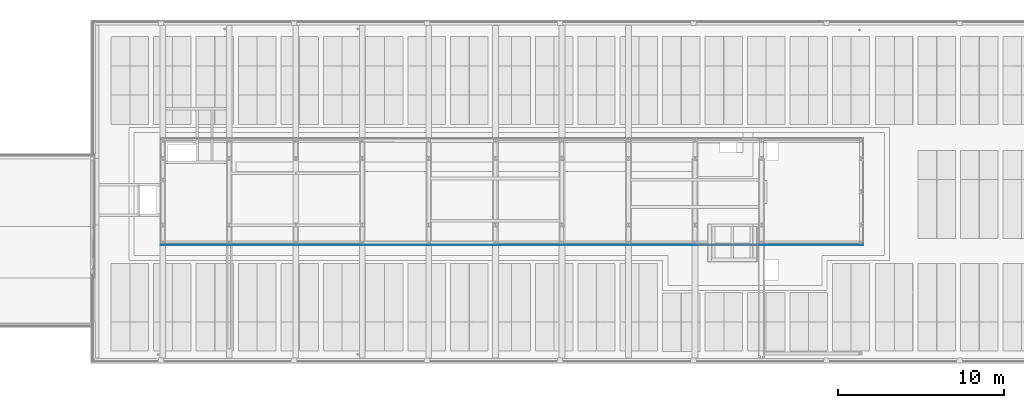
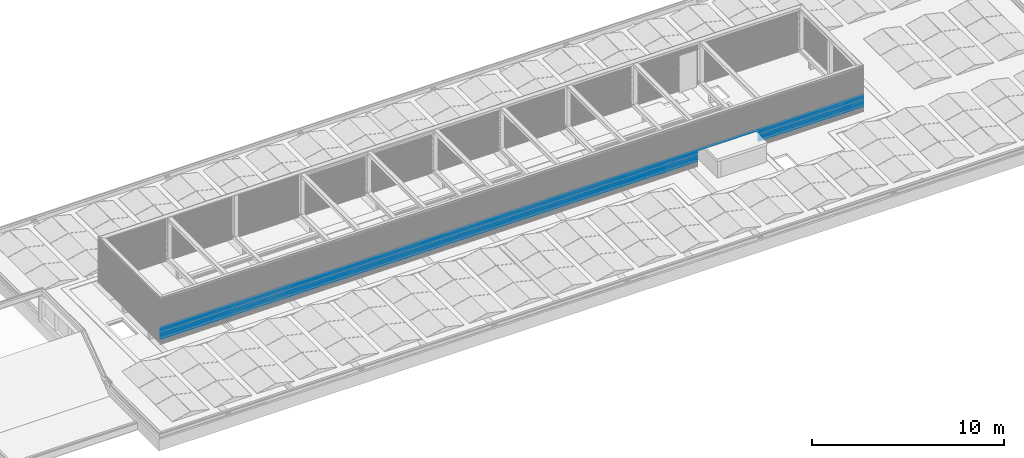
# One storey, part 34 of 63: 8 building element parts, 1 opening, 1 element without a shape of its own.
"""IFC2X3 building model written with IfcOpenShell, lengths in millimetres."""

import ifcopenshell
import ifcopenshell.guid

model = None  # the IFC model being written
_history = None  # IfcOwnerHistory: only IFC2X3 demands one
_inside = {}  # id of a spatial element -> (the spatial element, [elements in it])
_under = {}  # id of a project, library or spatial element -> (it, [spatial elements below it])
_declared = {}  # id of a project -> (the project, [libraries it declares])
_typed = {}  # id of a type object -> (the type object, [elements of that type])
_made_of = {}  # id of a material, layer set ... -> (it, [elements and type objects made of it])


def new_model(schema):
    """Start an empty IFC model of exactly this schema.

    Asked for "IFC4X3", IfcOpenShell would pick the latest addendum, in which some entities
    have other attributes; the version numbers below select the first issue.
    IFC2X3 requires an IfcOwnerHistory on every rooted entity: one is made here for all.
    """
    global model, _history
    if schema == "IFC4X3":
        model = ifcopenshell.file(schema_version=(4, 3, 0, 0))
    else:
        model = ifcopenshell.file(schema=schema)
    _inside.clear()
    _under.clear()
    _declared.clear()
    _typed.clear()
    _made_of.clear()
    _history = None
    if model.schema == "IFC2X3":
        org = make("IfcOrganization", Name="unknown")
        user = make(
            "IfcPersonAndOrganization",
            ThePerson=make("IfcPerson", FamilyName="unknown"),
            TheOrganization=org,
        )
        app = make(
            "IfcApplication",
            ApplicationDeveloper=org,
            Version="unknown",
            ApplicationFullName="unknown",
            ApplicationIdentifier="unknown",
        )
        _history = make(
            "IfcOwnerHistory",
            OwningUser=user,
            OwningApplication=app,
            ChangeAction="ADDED",
            CreationDate=0,
        )
    return model


def make(cls, **values):
    """One entity of the class cls with the attributes given. An attribute that is None is left unset."""
    return model.create_entity(
        cls, **{name: value for name, value in values.items() if value is not None}
    )


def entity(cls, *values):
    """Any entity or typed value of the class cls, its attributes in the order of the schema. None: left unset."""
    e = model.create_entity(cls)
    for i, value in enumerate(values):
        if value is not None:
            e[i] = value
    return e


def rooted(cls, **values):
    """An entity with a GlobalId (a new one), such as an element, a storey or a relation."""
    return make(cls, GlobalId=ifcopenshell.guid.new(), OwnerHistory=_history, **values)


def si_unit(unit_type, name, prefix=None):
    """IfcSIUnit, for example si_unit("LENGTHUNIT", "METRE", prefix="MILLI")."""
    return make("IfcSIUnit", UnitType=unit_type, Prefix=prefix, Name=name)


def converted_unit(unit_type, name, factor, base, dimensions=None, offset=None):
    """IfcConversionBasedUnit, such as the inch: factor (a typed value) times the base unit."""
    return make(
        "IfcConversionBasedUnit"
        if offset is None
        else "IfcConversionBasedUnitWithOffset",
        ConversionOffset=offset,
        Dimensions=None
        if dimensions is None
        else entity("IfcDimensionalExponents", *dimensions),
        UnitType=unit_type,
        Name=name,
        ConversionFactor=make(
            "IfcMeasureWithUnit", ValueComponent=factor, UnitComponent=base
        ),
    )


def derived_unit(unit_type, elements):
    """IfcDerivedUnit: a product of units, each with its exponent."""
    return make(
        "IfcDerivedUnit",
        Elements=[
            make("IfcDerivedUnitElement", Unit=unit, Exponent=power)
            for unit, power in elements
        ],
        UnitType=unit_type,
    )


def money_unit(currency):
    """IfcMonetaryUnit."""
    return make("IfcMonetaryUnit", Currency=currency)


def assignment(units):
    """IfcUnitAssignment: the units of a project."""
    return None if units is None else make("IfcUnitAssignment", Units=units)


def point(xyz):
    """IfcCartesianPoint."""
    return None if xyz is None else make("IfcCartesianPoint", Coordinates=xyz)


def direction(xyz):
    """IfcDirection."""
    return None if xyz is None else make("IfcDirection", DirectionRatios=xyz)


def frame(location, z_axis=None, x_axis=None):
    """IfcAxis2Placement3D, a coordinate frame: its origin and axes. An axis left out is left unset."""
    return make(
        "IfcAxis2Placement3D",
        Location=point(location),
        Axis=direction(z_axis),
        RefDirection=direction(x_axis),
    )


def origin_with_axes():
    """The frame at (0, 0, 0) with the z axis (0, 0, 1) and the x axis (1, 0, 0) written out."""
    return frame((0.0, 0.0, 0.0), z_axis=(0.0, 0.0, 1.0), x_axis=(1.0, 0.0, 0.0))


def place(relative_to, where):
    """IfcLocalPlacement: puts the frame where relative to a parent placement (None: the world)."""
    return make(
        "IfcLocalPlacement", PlacementRelTo=relative_to, RelativePlacement=where
    )


def context(
    kind, dimensions, precision=None, world=None, true_north=None, identifier=None
):
    """IfcGeometricRepresentationContext, for example the 3D "Model" context."""
    return make(
        "IfcGeometricRepresentationContext",
        ContextIdentifier=identifier,
        ContextType=kind,
        CoordinateSpaceDimension=dimensions,
        Precision=precision,
        WorldCoordinateSystem=world,
        TrueNorth=true_north,
    )


def subcontext(parent, identifier, kind, view, scale=None):
    """IfcGeometricRepresentationSubContext, for example "Body" below "Model"."""
    return make(
        "IfcGeometricRepresentationSubContext",
        ContextIdentifier=identifier,
        ContextType=kind,
        ParentContext=parent,
        TargetScale=scale,
        TargetView=view,
    )


def project(units=None, contexts=None):
    """IfcProject with its units and contexts."""
    return rooted(
        "IfcProject",
        Name="project",
        RepresentationContexts=contexts,
        UnitsInContext=assignment(units),
    )


def spatial(cls, under=None, at=None, **own):
    """A site, building, storey or space (cls), placed at a placement, below another one or the project."""
    s = rooted(cls, ObjectPlacement=at, **own)
    if under is not None:
        _under.setdefault(under.id(), (under, []))[1].append(s)
    return s


def faces_of(points, faces, orient=None, outer=None):
    """IfcFace entities. A face is a list of loops; a loop is a list of indices into points, from 0.

    orient and outer hold one flag for each loop. By default every Orientation is true, the
    first loop of a face is its IfcFaceOuterBound and the others are IfcFaceBound.
    """
    made = []
    for i, loops in enumerate(faces):
        bounds = []
        for j, loop in enumerate(loops):
            is_outer = j == 0 if outer is None else outer[i][j]
            bounds.append(
                make(
                    "IfcFaceOuterBound" if is_outer else "IfcFaceBound",
                    Bound=make("IfcPolyLoop", Polygon=[points[k] for k in loop]),
                    Orientation=True if orient is None else orient[i][j],
                )
            )
        made.append(make("IfcFace", Bounds=bounds))
    return made


def faceted_brep(points, faces, orient=None, outer=None, voids=None):
    """IfcFacetedBrep: a solid bounded by flat faces; with voids (closed shells), ...WithVoids."""
    shared = [point(p) for p in points]
    hull = make("IfcClosedShell", CfsFaces=faces_of(shared, faces, orient, outer))
    if voids is None:
        return make("IfcFacetedBrep", Outer=hull)
    return make(
        "IfcFacetedBrepWithVoids",
        Outer=hull,
        Voids=[
            make(cls, CfsFaces=faces_of(shared, fs, o, b)) for cls, fs, o, b in voids
        ],
    )


def shape(context_of_items, identifier, shape_type, items):
    """IfcShapeRepresentation: the items that make up one representation, for example the "Body"."""
    return make(
        "IfcShapeRepresentation",
        ContextOfItems=context_of_items,
        RepresentationIdentifier=identifier,
        RepresentationType=shape_type,
        Items=items,
    )


def material(Name=None, Category=None):
    """IfcMaterial."""
    return make("IfcMaterial", Name=Name, Category=Category)


def made_of(thing, what):
    """Note that an element or type object is made of a material, layer set ...; save() writes the relation."""
    if what is not None:
        _made_of.setdefault(what.id(), (what, []))[1].append(thing)
    return thing


def type_object(cls, material=None, **own):
    """A type object (cls), such as IfcWallType, which elements share."""
    return made_of(rooted(cls, **own), material)


def element(
    cls,
    number,
    at=None,
    inside=None,
    cuts=None,
    type_object=None,
    material=None,
    context=None,
    identifier="Body",
    shape_type=None,
    held_by="IfcProductDefinitionShape",
    body=None,
    shapes=None,
    **own,
):
    """One element of the class cls, such as IfcWall. Its Tag is "e" and its number.

    at: its placement. inside: the storey or other place that contains it. cuts: it is an
    opening in that element (IfcRelVoidsElement). A single representation is given by context,
    identifier, shape_type and body (its items); several are given by shapes. held_by: the class
    of the entity that holds the representations. save() writes the other relations.
    """
    e = rooted(cls, Tag="e%d" % number, ObjectPlacement=at, **own)
    if body is not None:
        shapes = [shape(context, identifier, shape_type, body)]
    if shapes is not None:
        e.Representation = make(held_by, Representations=shapes)
    if inside is not None:
        _inside.setdefault(inside.id(), (inside, []))[1].append(e)
    if cuts is not None:
        rooted(
            "IfcRelVoidsElement", RelatingBuildingElement=cuts, RelatedOpeningElement=e
        )
    if type_object is not None:
        _typed.setdefault(type_object.id(), (type_object, []))[1].append(e)
    return made_of(e, material)


def aggregate(whole, parts):
    """IfcRelAggregates: a whole, such as a stair, and the parts it consists of."""
    return rooted("IfcRelAggregates", RelatingObject=whole, RelatedObjects=parts)


def save(model, path):
    """Write the relations noted so far, then the file.

    IfcRelAggregates (storeys below a building ...), IfcRelContainedInSpatialStructure (elements
    in a storey), IfcRelDefinesByType, IfcRelAssociatesMaterial and IfcRelDeclares: one each for
    every whole, place, type object, material and project.
    """
    for whole, parts in _under.values():
        aggregate(whole, parts)
    for where, things in _inside.values():
        rooted(
            "IfcRelContainedInSpatialStructure",
            RelatedElements=things,
            RelatingStructure=where,
        )
    for kind, things in _typed.values():
        rooted("IfcRelDefinesByType", RelatedObjects=things, RelatingType=kind)
    for what, things in _made_of.values():
        rooted("IfcRelAssociatesMaterial", RelatedObjects=things, RelatingMaterial=what)
    for by, libraries in _declared.values():
        rooted("IfcRelDeclares", RelatingContext=by, RelatedDefinitions=libraries)
    model.write(path)


model = new_model("IFC2X3")

# Units and contexts
model_context = context("Model", 3, precision=0.01, world=origin_with_axes(), true_north=direction((0.0, 1.0)))
body_context = subcontext(model_context, "Body", "Model", "MODEL_VIEW")
ifc_project = project(units=[si_unit("LENGTHUNIT", "METRE", prefix="MILLI"), si_unit("AREAUNIT", "SQUARE_METRE"), si_unit("VOLUMEUNIT", "CUBIC_METRE"), converted_unit("PLANEANGLEUNIT", "DEGREE", entity("IfcPlaneAngleMeasure", 0.0174532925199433), si_unit("PLANEANGLEUNIT", "RADIAN"), dimensions=[0, 0, 0, 0, 0, 0, 0]), money_unit("EUR"), converted_unit("TIMEUNIT", "Year", entity("IfcTimeMeasure", 31557600.0), si_unit("TIMEUNIT", "SECOND"), dimensions=[0, 0, 1, 0, 0, 0, 0]), si_unit("MASSUNIT", "GRAM", prefix="KILO"), si_unit("THERMODYNAMICTEMPERATUREUNIT", "DEGREE_CELSIUS"), si_unit("LUMINOUSINTENSITYUNIT", "LUMEN"), si_unit("ENERGYUNIT", "JOULE", prefix="MEGA"), derived_unit("THERMALCONDUCTANCEUNIT", [(si_unit("POWERUNIT", "WATT"), 1), (si_unit("LENGTHUNIT", "METRE"), -1), (si_unit("THERMODYNAMICTEMPERATUREUNIT", "KELVIN"), -1)]), derived_unit("SPECIFICHEATCAPACITYUNIT", [(si_unit("ENERGYUNIT", "JOULE"), 1), (si_unit("MASSUNIT", "GRAM", prefix="KILO"), -1), (si_unit("THERMODYNAMICTEMPERATUREUNIT", "KELVIN"), -1)]), derived_unit("MASSDENSITYUNIT", [(si_unit("MASSUNIT", "GRAM", prefix="KILO"), 1), (si_unit("VOLUMEUNIT", "CUBIC_METRE"), -1)])], contexts=[model_context])

# Site, building, storey
site_placement = place(None, origin_with_axes())
site = spatial("IfcSite", under=ifc_project, at=site_placement, Name="<site naam>", CompositionType="ELEMENT")
building_placement = place(site_placement, origin_with_axes())
building = spatial("IfcBuilding", under=site, at=building_placement, Name="<Naam gebouw>", CompositionType="ELEMENT")
storey_placement = place(building_placement, frame((0.0, 0.0, 12770.0), z_axis=(0.0, 0.0, 1.0), x_axis=(1.0, 0.0, 0.0)))
storey = spatial("IfcBuildingStorey", under=building, at=storey_placement, Name="04 4e verdieping", CompositionType="ELEMENT", Elevation=12770.0)

# Wall, opening, building element parts
wall_type = type_object("IfcWallType", Name="Gevelbeplating golf 18 x 2900", PredefinedType="NOTDEFINED")
wall_placement = place(storey_placement, frame((15871.99992141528, 6781.999921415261, 299.9552842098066), z_axis=(0.0, 0.0, 1.0), x_axis=(1.0, 0.0, 0.0)))
wall = element("IfcWall", 1, at=wall_placement, inside=storey, type_object=wall_type, Name="47_Binnenwand_Gevelbeplating")
opening_placement = place(wall_placement, frame((-15871.99992141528, -6781.999921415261, -13069.95528420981), z_axis=(0.0, 0.0, 1.0), x_axis=(1.0, 0.0, 0.0)))
element("IfcOpeningElement", 2, at=opening_placement, cuts=wall, Name="47_Opening_", context=body_context, shape_type="Brep", body=[
    faceted_brep([(48150.00001112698, 6763.99976424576, 12770.0), (48150.00001112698, 6763.99976424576, 14059.65145375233), (48150.00001112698, 6818.000000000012, 14059.65145375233), (48150.00001112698, 6818.000000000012, 12770.0), (51850.00001112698, 6763.99976424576, 12770.0), (51850.00001112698, 6763.99976424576, 14059.65145375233), (51850.00001112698, 6818.000000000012, 14059.65145375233), (51850.00001112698, 6818.000000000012, 12770.0)], [[[0, 1, 2, 3]], [[0, 4, 5, 1]], [[1, 5, 6, 2]], [[3, 2, 6, 7]], [[4, 0, 3, 7]], [[5, 4, 7, 6]]]),
])
ifc_material = material(Name="gevelafwerking type 3 - Aluminium RAL1036")
building_element_part_1_placement = place(wall_placement, origin_with_axes())
building_element_part_1 = element("IfcBuildingElementPart", 3, at=building_element_part_1_placement, material=ifc_material, Name="gevelafwerking type 3 - Aluminium RAL1036", context=body_context, shape_type="Brep", body=[
    faceted_brep([(14.54420270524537, 15.62925335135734, 369.3155113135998), (14.77517145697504, 15.69999198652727, 369.6343177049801), (16.99997058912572, 17.99999047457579, 380.000004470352), (42239.00018658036, 17.99999047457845, 380.000004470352), (42241.22498571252, 15.69999198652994, 369.6343177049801), (42241.45595446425, 15.62925335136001, 369.3155113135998), (8.555206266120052, 9.398118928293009, 361.0488937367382), (8.555206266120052, 8.555243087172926, 361.0488937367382), (14.77517145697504, 14.7751875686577, 369.6343177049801), (16.99997058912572, 16.9999880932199, 380.000004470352), (42239.00018658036, 16.99998809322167, 380.000004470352), (42241.22498571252, 14.77518756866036, 369.6343177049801), (42247.44495090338, 9.398118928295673, 361.0488937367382), (42247.44495090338, 8.55524308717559, 361.0488937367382), (42247.79065310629, 9.04157414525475, 360.5758788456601), (8.209504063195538, 9.041574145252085, 360.5758788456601), (2.257331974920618, 3.340120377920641, 352.4317943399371), (2.257331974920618, 2.25734917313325, 352.4317943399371), (42253.74282519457, 3.340120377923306, 352.4317943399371), (42253.74282519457, 2.257349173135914, 352.4317943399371), (42253.8119553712, 3.116468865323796, 352.1123255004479), (2.188211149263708, 3.116468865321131, 352.1123255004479), (-6.853984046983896e-06, 0.9999904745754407, 341.9999910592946), (-6.853984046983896e-06, -9.525424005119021e-06, 341.9999910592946), (42256.00016402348, 0.9999904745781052, 341.9999910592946), (42256.00016402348, -9.525422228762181e-06, 341.9999910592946)], [[[0, 1, 2, 3, 4, 5]], [[1, 0, 6, 7, 8]], [[2, 1, 8, 9]], [[2, 9, 10, 3]], [[4, 3, 10, 11]], [[12, 5, 4, 11, 13]], [[6, 0, 5, 12, 14, 15]], [[6, 15, 16, 17, 7]], [[8, 7, 13, 11]], [[9, 8, 11, 10]], [[18, 14, 12, 13, 19]], [[16, 15, 14, 18, 20, 21]], [[16, 21, 22, 23, 17]], [[7, 17, 19, 13]], [[24, 20, 18, 19, 25]], [[22, 21, 20, 24]], [[23, 22, 24, 25]], [[17, 23, 25, 19]]]),
])
building_element_part_2_placement = place(wall_placement, origin_with_axes())
building_element_part_2 = element("IfcBuildingElementPart", 4, at=building_element_part_2_placement, material=ifc_material, Name="gevelafwerking type 3 - Aluminium RAL1036", context=body_context, shape_type="Brep", body=[
    faceted_brep([(14.54419514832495, 15.62925097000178, 521.315511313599), (14.77517145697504, 15.69999191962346, 521.6343281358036), (16.99997058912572, 17.99998809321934, 532.0000149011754), (42239.00018658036, 17.99998809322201, 532.0000149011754), (42241.22498571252, 15.69999191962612, 521.6343281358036), (42241.45596202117, 15.62925097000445, 521.315511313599), (8.555206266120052, 9.398124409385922, 513.0489041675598), (8.555206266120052, 8.55524070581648, 513.0489041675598), (14.77517145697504, 14.77518518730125, 521.6343281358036), (16.99997058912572, 16.99998571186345, 532.0000149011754), (42239.00018658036, 16.99998571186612, 532.0000149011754), (42241.22498571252, 14.77518518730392, 521.6343281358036), (42247.44495090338, 9.398124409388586, 513.0489041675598), (42247.44495090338, 8.555240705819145, 513.0489041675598), (42247.79066072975, 9.041571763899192, 512.5758788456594), (8.209496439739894, 9.041571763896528, 512.5758788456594), (2.257331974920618, 3.340125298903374, 504.4318047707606), (2.257331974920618, 2.257346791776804, 504.4318047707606), (42253.74282519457, 3.340125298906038, 504.4318047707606), (42253.74282519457, 2.257346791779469, 504.4318047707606), (42253.81195762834, 3.116466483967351, 504.1123255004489), (2.188204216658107, 3.116466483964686, 504.1123255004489), (-1.15294653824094e-05, 0.9999880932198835, 494.0000014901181), (-1.15294653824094e-05, -1.190678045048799e-05, 494.0000014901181), (42256.00016869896, 0.999988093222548, 494.0000014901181), (42256.00016869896, -1.190677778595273e-05, 494.0000014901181)], [[[0, 1, 2, 3, 4, 5]], [[1, 0, 6, 7, 8]], [[2, 1, 8, 9]], [[2, 9, 10, 3]], [[4, 3, 10, 11]], [[12, 5, 4, 11, 13]], [[6, 0, 5, 12, 14, 15]], [[6, 15, 16, 17, 7]], [[8, 7, 13, 11]], [[9, 8, 11, 10]], [[18, 14, 12, 13, 19]], [[16, 15, 14, 18, 20, 21]], [[16, 21, 22, 23, 17]], [[7, 17, 19, 13]], [[24, 20, 18, 19, 25]], [[22, 21, 20, 24]], [[23, 22, 24, 25]], [[17, 23, 25, 19]]]),
])
building_element_part_3_placement = place(wall_placement, origin_with_axes())
building_element_part_3 = element("IfcBuildingElementPart", 5, at=building_element_part_3_placement, material=ifc_material, Name="gevelafwerking type 3 - Aluminium RAL1036", context=body_context, shape_type="Brep", body=[
    faceted_brep([(14.54420702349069, 15.62924858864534, 597.3155113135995), (14.77517145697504, 15.69998590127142, 597.6343117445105), (16.99997058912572, 17.99998571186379, 607.9999985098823), (42239.00018658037, 17.99998571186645, 607.9999985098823), (42241.22498571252, 15.69998590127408, 597.6343117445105), (42241.45595014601, 15.629248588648, 597.3155113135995), (8.555206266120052, 9.398109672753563, 589.0488877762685), (8.555206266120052, 8.555238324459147, 589.0488877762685), (14.77517145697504, 14.77518280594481, 597.6343117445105), (16.99997058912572, 16.99998333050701, 607.9999985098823), (42239.00018658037, 16.99998333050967, 607.9999985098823), (42241.22498571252, 14.77518280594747, 597.6343117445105), (42247.44495090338, 9.398109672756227, 589.0488877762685), (42247.44495090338, 8.555238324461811, 589.0488877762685), (42247.79065342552, 9.041569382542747, 588.5758788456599), (8.209503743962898, 9.041569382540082, 588.5758788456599), (2.257327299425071, 3.340111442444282, 580.4317883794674), (2.257327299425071, 2.257344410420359, 580.4317883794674), (42253.74282987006, 3.340111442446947, 580.4317883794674), (42253.74282987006, 2.257344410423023, 580.4317883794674), (42253.81195979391, 3.116464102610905, 580.1123255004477), (2.188197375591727, 3.116464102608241, 580.1123255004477), (-5.474286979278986e-05, 0.9999857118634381, 569.9999850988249), (-5.474286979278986e-05, -1.428813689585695e-05, 569.9999850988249), (42256.00021191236, 0.9999857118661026, 569.9999850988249), (42256.00021191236, -1.428813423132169e-05, 569.9999850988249)], [[[0, 1, 2, 3, 4, 5]], [[1, 0, 6, 7, 8]], [[2, 1, 8, 9]], [[2, 9, 10, 3]], [[4, 3, 10, 11]], [[12, 5, 4, 11, 13]], [[6, 0, 5, 12, 14, 15]], [[6, 15, 16, 17, 7]], [[8, 7, 13, 11]], [[9, 8, 11, 10]], [[18, 14, 12, 13, 19]], [[16, 15, 14, 18, 20, 21]], [[16, 21, 22, 23, 17]], [[7, 17, 19, 13]], [[24, 20, 18, 19, 25]], [[22, 21, 20, 24]], [[23, 22, 24, 25]], [[17, 23, 25, 19]]]),
])
building_element_part_4_placement = place(wall_placement, origin_with_axes())
building_element_part_4 = element("IfcBuildingElementPart", 6, at=building_element_part_4_placement, material=ifc_material, Name="gevelafwerking type 3 - Aluminium RAL1036", context=body_context, shape_type="Brep", body=[
    faceted_brep([(33241.00000828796, 16.99997856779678, 760.0000089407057), (33241.00000828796, 17.99998094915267, 760.0000089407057), (16.99997058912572, 17.9999809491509, 760.0000089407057), (16.99997058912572, 16.999978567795, 760.0000089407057), (33241.00000828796, 15.62924382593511, 749.3155113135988), (33241.00000828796, 14.77517804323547, 749.6343221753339), (33241.00000828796, 8.555233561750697, 741.0488982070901), (33241.00000828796, 2.257339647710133, 732.4317988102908), (33241.00000828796, -1.905084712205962e-05, 721.9999955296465), (33241.00000828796, 0.9999809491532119, 721.9999955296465), (33241.00000828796, 3.116459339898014, 732.1123255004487), (33241.00000828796, 9.041564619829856, 740.5758788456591), (14.54419946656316, 15.62924382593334, 749.3155113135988), (14.77517145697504, 15.69998345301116, 749.6343221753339), (14.77517145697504, 14.77517804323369, 749.6343221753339), (8.555206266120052, 8.55523356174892, 741.0488982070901), (2.257327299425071, 2.257339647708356, 732.4317988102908), (-5.474286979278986e-05, -1.905084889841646e-05, 721.9999955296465), (-5.474286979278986e-05, 0.9999809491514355, 721.9999955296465), (2.188195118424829, 3.116459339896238, 732.1123255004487), (2.257327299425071, 3.340113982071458, 732.4317988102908), (8.209496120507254, 9.04156461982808, 740.5758788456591), (8.555206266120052, 9.39811277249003, 741.0488982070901)], [[[0, 1, 2, 3]], [[4, 1, 0, 5, 6, 7, 8, 9, 10, 11]], [[1, 4, 12, 13, 2]], [[3, 2, 13, 14]], [[5, 0, 3, 14]], [[6, 5, 14, 15]], [[7, 6, 15, 16]], [[8, 7, 16, 17]], [[9, 8, 17, 18]], [[10, 9, 18, 19]], [[11, 10, 19, 20, 21]], [[4, 11, 21, 22, 12]], [[14, 13, 12, 22, 15]], [[15, 22, 21, 20, 16]], [[16, 20, 19, 18, 17]]]),
    faceted_brep([(35508.99994541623, 16.99997856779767, 760.0000089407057), (35508.99994541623, 17.99998094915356, 760.0000089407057), (34382.99997685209, 17.99998094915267, 760.0000089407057), (34382.99997685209, 16.99997856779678, 760.0000089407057), (35508.99994541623, 15.629243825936, 749.3155113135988), (35508.99994541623, 14.77517804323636, 749.6343221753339), (35508.99994541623, 8.555233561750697, 741.0488982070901), (35508.99994541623, 2.257339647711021, 732.4317988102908), (35508.99994541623, -1.90508462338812e-05, 721.9999955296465), (35508.99994541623, 0.9999809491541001, 721.9999955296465), (35508.99994541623, 3.116459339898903, 732.1123255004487), (35508.99994541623, 9.041564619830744, 740.5758788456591), (34382.99997685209, 15.62924382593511, 749.3155113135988), (34382.99997685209, 9.041564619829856, 740.5758788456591), (34382.99997685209, 3.116459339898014, 732.1123255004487), (34382.99997685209, 0.9999809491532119, 721.9999955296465), (34382.99997685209, -1.905084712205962e-05, 721.9999955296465), (34382.99997685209, 2.257339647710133, 732.4317988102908), (34382.99997685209, 8.555233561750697, 741.0488982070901), (34382.99997685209, 14.77517804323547, 749.6343221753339)], [[[0, 1, 2, 3]], [[4, 1, 0, 5, 6, 7, 8, 9, 10, 11]], [[1, 4, 12, 2]], [[3, 2, 12, 13, 14, 15, 16, 17, 18, 19]], [[5, 0, 3, 19]], [[6, 5, 19, 18]], [[7, 6, 18, 17]], [[8, 7, 17, 16]], [[9, 8, 16, 15]], [[10, 9, 15, 14]], [[11, 10, 14, 13]], [[4, 11, 13, 12]]]),
    faceted_brep([(33249.00000828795, 15.62924382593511, 749.3155113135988), (33249.00000828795, 17.99998094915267, 760.0000089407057), (34374.99997685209, 17.99998094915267, 760.0000089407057), (34374.99997685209, 15.62924382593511, 749.3155113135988), (33249.00000828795, 16.99997856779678, 760.0000089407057), (33249.00000828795, 9.041564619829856, 740.5758788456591), (33249.00000828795, 3.116459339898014, 732.1123255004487), (33249.00000828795, 0.9999809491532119, 721.9999955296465), (33249.00000828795, -1.905084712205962e-05, 721.9999955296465), (33249.00000828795, 2.257339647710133, 732.4317988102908), (33249.00000828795, 8.555233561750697, 741.0488982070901), (33249.00000828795, 14.77517804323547, 749.6343221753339), (34374.99997685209, 16.99997856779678, 760.0000089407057), (34374.99997685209, 14.77517804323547, 749.6343221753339), (34374.99997685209, 8.555233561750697, 741.0488982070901), (34374.99997685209, 2.257339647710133, 732.4317988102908), (34374.99997685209, -1.905084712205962e-05, 721.9999955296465), (34374.99997685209, 0.9999809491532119, 721.9999955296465), (34374.99997685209, 3.116459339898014, 732.1123255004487), (34374.99997685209, 9.041564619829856, 740.5758788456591)], [[[0, 1, 2, 3]], [[4, 1, 0, 5, 6, 7, 8, 9, 10, 11]], [[1, 4, 12, 2]], [[3, 2, 12, 13, 14, 15, 16, 17, 18, 19]], [[5, 0, 3, 19]], [[6, 5, 19, 18]], [[7, 6, 18, 17]], [[8, 7, 17, 16]], [[9, 8, 16, 15]], [[10, 9, 15, 14]], [[11, 10, 14, 13]], [[4, 11, 13, 12]]]),
    faceted_brep([(35516.99994541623, 15.629243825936, 749.3155113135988), (35516.99994541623, 17.99998094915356, 760.0000089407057), (42239.00018658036, 17.99998094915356, 760.0000089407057), (42241.22498571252, 15.69998345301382, 749.6343221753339), (42241.45595770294, 15.629243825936, 749.3155113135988), (35516.99994541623, 16.99997856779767, 760.0000089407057), (35516.99994541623, 9.041564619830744, 740.5758788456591), (35516.99994541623, 3.116459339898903, 732.1123255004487), (35516.99994541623, 0.9999809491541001, 721.9999955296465), (35516.99994541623, -1.90508462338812e-05, 721.9999955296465), (35516.99994541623, 2.257339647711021, 732.4317988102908), (35516.99994541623, 8.555233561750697, 741.0488982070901), (35516.99994541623, 14.77517804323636, 749.6343221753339), (42239.00018658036, 16.99997856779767, 760.0000089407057), (42241.22498571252, 14.77517804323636, 749.6343221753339), (42247.44495090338, 8.555233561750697, 741.0488982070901), (42247.44495090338, 9.398112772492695, 741.0488982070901), (42247.79066104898, 9.041564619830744, 740.5758788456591), (42253.74282987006, 3.340113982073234, 732.4317988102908), (42253.81196205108, 3.116459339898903, 732.1123255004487), (42256.00021191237, 0.9999809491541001, 721.9999955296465), (42256.00021191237, -1.90508462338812e-05, 721.9999955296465), (42253.74282987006, 2.257339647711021, 732.4317988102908)], [[[0, 1, 2, 3, 4]], [[5, 1, 0, 6, 7, 8, 9, 10, 11, 12]], [[1, 5, 13, 2]], [[14, 3, 2, 13]], [[15, 16, 4, 3, 14]], [[6, 0, 4, 16, 17]], [[7, 6, 17, 18, 19]], [[8, 7, 19, 20]], [[9, 8, 20, 21]], [[10, 9, 21, 22]], [[11, 10, 22, 15]], [[12, 11, 15, 14]], [[5, 12, 14, 13]], [[22, 18, 17, 16, 15]], [[21, 20, 19, 18, 22]]]),
])
building_element_part_5_placement = place(wall_placement, origin_with_axes())
building_element_part_5 = element("IfcBuildingElementPart", 7, at=building_element_part_5_placement, material=ifc_material, Name="gevelafwerking type 3 - Aluminium RAL1036", context=body_context, shape_type="Brep", body=[
    faceted_brep([(33241.00000828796, 16.99998094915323, 683.9999821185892), (33241.00000828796, 17.99998333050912, 683.9999821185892), (16.99997058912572, 17.99998333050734, 683.9999821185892), (16.99997058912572, 16.99998094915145, 683.9999821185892), (33241.00000828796, 15.62924620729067, 673.3155113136), (33241.00000828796, 14.77518042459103, 673.6342953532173), (33241.00000828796, 8.555235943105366, 665.0488713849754), (33241.00000828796, 2.257342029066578, 656.4317719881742), (33241.00000828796, 0.4587415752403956, 648.1200123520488), (33241.00000828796, 1.447304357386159, 648.1372677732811), (33241.00000828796, 3.11646172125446, 656.1123255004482), (33241.00000828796, 9.041567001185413, 664.5758788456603), (14.54421889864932, 15.62924620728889, 673.3155113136), (14.77517145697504, 15.69997988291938, 673.6342953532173), (14.77517145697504, 14.77518042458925, 673.6342953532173), (8.555206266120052, 8.55523594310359, 665.0488713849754), (2.257327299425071, 2.257342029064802, 656.4317719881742), (-5.006730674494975e-05, -1.66694924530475e-05, 646.0000119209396), (33164.99986461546, -1.666949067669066e-05, 646.0000119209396), (33164.99986682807, 0.4587415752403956, 648.1200123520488), (33164.99986682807, 1.447304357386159, 648.1372677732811), (33164.99986459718, 0.9999833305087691, 646.0000119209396), (-5.006730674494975e-05, 0.9999833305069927, 646.0000119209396), (2.188196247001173, 3.116461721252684, 656.1123255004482), (2.257327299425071, 3.340097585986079, 656.4317719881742), (8.20951572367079, 9.041567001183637, 664.5758788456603), (8.555206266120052, 9.398094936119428, 665.0488713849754)], [[[0, 1, 2, 3]], [[4, 1, 0, 5, 6, 7, 8, 9, 10, 11]], [[1, 4, 12, 13, 2]], [[3, 2, 13, 14]], [[5, 0, 3, 14]], [[6, 5, 14, 15]], [[7, 6, 15, 16]], [[8, 7, 16, 17, 18, 19]], [[20, 9, 8, 19]], [[20, 21, 22, 23, 10, 9]], [[11, 10, 23, 24, 25]], [[4, 11, 25, 26, 12]], [[14, 13, 12, 26, 15]], [[15, 26, 25, 24, 16]], [[16, 24, 23, 22, 17]], [[21, 18, 17, 22]], [[21, 20, 19, 18]]]),
    faceted_brep([(35508.99994541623, 16.99998094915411, 683.9999821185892), (35508.99994541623, 17.99998333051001, 683.9999821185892), (34382.99997685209, 17.99998333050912, 683.9999821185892), (34382.99997685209, 16.99998094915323, 683.9999821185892), (35508.99994541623, 15.62924620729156, 673.3155113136), (35508.99994541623, 14.77518042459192, 673.6342953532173), (35508.99994541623, 8.555235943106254, 665.0488713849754), (35508.99994541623, 2.257342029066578, 656.4317719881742), (35508.99994541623, 0.4587415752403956, 648.1200123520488), (35508.99994541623, 1.447304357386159, 648.1372677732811), (35508.99994541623, 3.116461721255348, 656.1123255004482), (35508.99994541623, 9.041567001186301, 664.5758788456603), (34382.99997685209, 15.62924620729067, 673.3155113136), (34382.99997685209, 9.041567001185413, 664.5758788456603), (34382.99997685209, 3.11646172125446, 656.1123255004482), (34382.99997685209, 0.9999833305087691, 646.0000119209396), (34382.99997685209, -1.666949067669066e-05, 646.0000119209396), (34382.99997685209, 2.257342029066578, 656.4317719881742), (34382.99997685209, 8.555235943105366, 665.0488713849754), (34382.99997685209, 14.77518042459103, 673.6342953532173), (35432.99980174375, -1.666949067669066e-05, 646.0000119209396), (35432.99980395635, 0.4587415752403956, 648.1200123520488), (35432.99980395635, 1.447304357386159, 648.1372677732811), (35432.99980172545, 0.9999833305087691, 646.0000119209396)], [[[0, 1, 2, 3]], [[4, 1, 0, 5, 6, 7, 8, 9, 10, 11]], [[1, 4, 12, 2]], [[3, 2, 12, 13, 14, 15, 16, 17, 18, 19]], [[5, 0, 3, 19]], [[6, 5, 19, 18]], [[7, 6, 18, 17]], [[8, 7, 17, 16, 20, 21]], [[22, 9, 8, 21]], [[22, 23, 15, 14, 10, 9]], [[11, 10, 14, 13]], [[4, 11, 13, 12]], [[23, 20, 16, 15]], [[23, 22, 21, 20]]]),
    faceted_brep([(33249.00000828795, 1.447304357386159, 648.1372677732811), (33249.00000828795, 3.11646172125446, 656.1123255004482), (34374.99997685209, 3.11646172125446, 656.1123255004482), (34374.99997685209, 0.9999833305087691, 646.0000119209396), (33325.00015197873, 0.9999833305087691, 646.0000119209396), (33325.00014974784, 1.447304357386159, 648.1372677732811), (33249.00000828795, 16.99998094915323, 683.9999821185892), (33249.00000828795, 17.99998333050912, 683.9999821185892), (33249.00000828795, 15.62924620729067, 673.3155113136), (33249.00000828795, 9.041567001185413, 664.5758788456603), (33249.00000828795, 0.4587415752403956, 648.1200123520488), (33249.00000828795, 2.257342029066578, 656.4317719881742), (33249.00000828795, 8.555235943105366, 665.0488713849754), (33249.00000828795, 14.77518042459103, 673.6342953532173), (34374.99997685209, 9.041567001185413, 664.5758788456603), (34374.99997685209, 15.62924620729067, 673.3155113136), (34374.99997685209, 17.99998333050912, 683.9999821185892), (34374.99997685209, 16.99998094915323, 683.9999821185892), (34374.99997685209, 14.77518042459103, 673.6342953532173), (34374.99997685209, 8.555235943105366, 665.0488713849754), (34374.99997685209, 2.257342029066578, 656.4317719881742), (34374.99997685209, -1.666949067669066e-05, 646.0000119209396), (33325.00015196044, -1.666949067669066e-05, 646.0000119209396), (33325.00014974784, 0.4587415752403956, 648.1200123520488)], [[[0, 1, 2, 3, 4, 5]], [[6, 7, 8, 9, 1, 0, 10, 11, 12, 13]], [[1, 9, 14, 2]], [[15, 16, 17, 18, 19, 20, 21, 3, 2, 14]], [[22, 4, 3, 21]], [[5, 4, 22, 23]], [[0, 5, 23, 10]], [[7, 6, 17, 16]], [[8, 7, 16, 15]], [[9, 8, 15, 14]], [[23, 22, 21, 20, 11, 10]], [[12, 11, 20, 19]], [[13, 12, 19, 18]], [[6, 13, 18, 17]]]),
    faceted_brep([(35516.99994541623, 1.447304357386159, 648.1372677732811), (35516.99994541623, 3.116461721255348, 656.1123255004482), (42253.81195624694, 3.116461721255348, 656.1123255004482), (42256.0002072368, 0.9999833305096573, 646.0000119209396), (35593.00008910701, 0.9999833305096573, 646.0000119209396), (35593.00008687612, 1.447304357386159, 648.1372677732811), (35516.99994541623, 16.99998094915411, 683.9999821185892), (35516.99994541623, 17.99998333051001, 683.9999821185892), (35516.99994541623, 15.62924620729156, 673.3155113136), (35516.99994541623, 9.041567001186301, 664.5758788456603), (35516.99994541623, 0.4587415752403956, 648.1200123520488), (35516.99994541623, 2.257342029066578, 656.4317719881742), (35516.99994541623, 8.555235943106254, 665.0488713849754), (35516.99994541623, 14.77518042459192, 673.6342953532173), (42247.79064144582, 9.041567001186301, 664.5758788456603), (42253.74282987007, 3.340097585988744, 656.4317719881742), (42256.0002072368, -1.666948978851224e-05, 646.0000119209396), (42253.74282987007, 2.257342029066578, 656.4317719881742), (35593.00008908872, -1.666948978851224e-05, 646.0000119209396), (35593.00008687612, 0.4587415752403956, 648.1200123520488), (42239.00018658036, 16.99998094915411, 683.9999821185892), (42239.00018658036, 17.99998333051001, 683.9999821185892), (42241.22498571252, 15.69997988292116, 673.6342953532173), (42241.45593827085, 15.62924620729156, 673.3155113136), (42247.44495090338, 9.398094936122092, 665.0488713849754), (42247.44495090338, 8.555235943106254, 665.0488713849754), (42241.22498571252, 14.77518042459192, 673.6342953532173)], [[[0, 1, 2, 3, 4, 5]], [[6, 7, 8, 9, 1, 0, 10, 11, 12, 13]], [[1, 9, 14, 15, 2]], [[16, 3, 2, 15, 17]], [[18, 4, 3, 16]], [[5, 4, 18, 19]], [[0, 5, 19, 10]], [[7, 6, 20, 21]], [[8, 7, 21, 22, 23]], [[9, 8, 23, 24, 14]], [[19, 18, 16, 17, 11, 10]], [[12, 11, 17, 25]], [[13, 12, 25, 26]], [[6, 13, 26, 20]], [[17, 15, 14, 24, 25]], [[26, 22, 21, 20]], [[25, 24, 23, 22, 26]]]),
])
building_element_part_6_placement = place(wall_placement, origin_with_axes())
building_element_part_6 = element("IfcBuildingElementPart", 8, at=building_element_part_6_placement, material=ifc_material, Name="gevelafwerking type 3 - Aluminium RAL1036", context=body_context, shape_type="Brep", body=[
    faceted_brep([(42241.45596525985, 15.629239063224, 901.3155113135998), (14.54419190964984, 15.62923906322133, 901.3155113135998), (14.77517145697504, 15.69998100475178, 901.6343326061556), (16.99997058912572, 17.99997618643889, 912.0000193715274), (42239.00018658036, 17.99997618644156, 912.0000193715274), (42241.22498571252, 15.69998100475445, 901.6343326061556), (8.209488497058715, 9.041559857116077, 892.5758788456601), (8.555206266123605, 9.398115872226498, 893.0489086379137), (42247.44495090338, 9.398115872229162, 893.0489086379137), (42247.79066867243, 9.041559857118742, 892.5758788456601), (14.77517145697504, 14.7751732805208, 901.6343326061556), (8.555206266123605, 8.55522879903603, 893.0489086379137), (16.99997058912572, 16.999973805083, 912.0000193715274), (42239.00018658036, 16.99997380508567, 912.0000193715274), (42241.22498571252, 14.77517328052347, 901.6343326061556), (42247.44495090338, 8.555228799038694, 893.0489086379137), (2.257327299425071, 3.34011652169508, 884.4318092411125), (2.257327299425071, 2.257334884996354, 884.4318092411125), (42253.74282987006, 2.257334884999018, 884.4318092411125), (42253.74282987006, 3.340116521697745, 884.4318092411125), (2.188192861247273, 3.116454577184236, 884.1123255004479), (42253.81196430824, 3.1164545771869, 884.1123255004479), (-5.474286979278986e-05, 0.999976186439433, 874.00000596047), (-5.474286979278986e-05, -2.381356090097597e-05, 874.00000596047), (42256.00021191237, -2.381355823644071e-05, 874.00000596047), (42256.00021191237, 0.9999761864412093, 874.00000596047)], [[[0, 1, 2, 3, 4, 5]], [[6, 7, 1, 0, 8, 9]], [[10, 2, 1, 7, 11]], [[12, 3, 2, 10]], [[4, 3, 12, 13]], [[14, 5, 4, 13]], [[15, 8, 0, 5, 14]], [[11, 7, 6, 16, 17]], [[18, 19, 9, 8, 15]], [[20, 16, 6, 9, 19, 21]], [[14, 10, 11, 15]], [[13, 12, 10, 14]], [[17, 16, 20, 22, 23]], [[15, 11, 17, 18]], [[24, 25, 21, 19, 18]], [[25, 22, 20, 21]], [[24, 23, 22, 25]], [[18, 17, 23, 24]]]),
])
building_element_part_7_placement = place(wall_placement, origin_with_axes())
building_element_part_7 = element("IfcBuildingElementPart", 9, at=building_element_part_7_placement, material=ifc_material, Name="gevelafwerking type 3 - Aluminium RAL1036", context=body_context, shape_type="Brep", body=[
    faceted_brep([(42241.45595338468, 15.62923668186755, 977.3155113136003), (14.54420378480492, 15.62923668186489, 977.3155113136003), (14.77517145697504, 15.69997498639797, 977.6343162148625), (16.99997058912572, 17.99997380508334, 988.0000029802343), (42239.00018658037, 17.99997380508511, 988.0000029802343), (42241.22498571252, 15.69997498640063, 977.6343162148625), (8.209500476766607, 9.041557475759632, 968.5758788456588), (8.555206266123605, 9.39810113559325, 969.0488922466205), (42247.44495090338, 9.398101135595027, 969.0488922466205), (42247.79065669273, 9.041557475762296, 968.5758788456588), (14.77517145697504, 14.77517089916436, 977.6343162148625), (8.555206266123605, 8.555226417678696, 969.0488922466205), (16.99997058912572, 16.99997142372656, 988.0000029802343), (42239.00018658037, 16.99997142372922, 988.0000029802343), (42241.22498571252, 14.77517089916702, 977.6343162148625), (42247.44495090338, 8.55522641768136, 969.0488922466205), (2.257327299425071, 3.340102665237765, 960.4317928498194), (2.257327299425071, 2.257332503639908, 960.4317928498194), (42253.74282987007, 2.257332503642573, 960.4317928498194), (42253.74282987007, 3.34010266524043, 960.4317928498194), (2.188196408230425, 3.11645219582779, 960.1123255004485), (42253.81196076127, 3.116452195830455, 960.1123255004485), (-5.474287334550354e-05, 0.9999738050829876, 949.9999895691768), (-5.474287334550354e-05, -2.619491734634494e-05, 949.9999895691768), (42256.00021191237, -2.619491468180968e-05, 949.9999895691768), (42256.00021191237, 0.9999738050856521, 949.9999895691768)], [[[0, 1, 2, 3, 4, 5]], [[6, 7, 1, 0, 8, 9]], [[10, 2, 1, 7, 11]], [[12, 3, 2, 10]], [[4, 3, 12, 13]], [[14, 5, 4, 13]], [[15, 8, 0, 5, 14]], [[11, 7, 6, 16, 17]], [[18, 19, 9, 8, 15]], [[20, 16, 6, 9, 19, 21]], [[14, 10, 11, 15]], [[13, 12, 10, 14]], [[17, 16, 20, 22, 23]], [[15, 11, 17, 18]], [[24, 25, 21, 19, 18]], [[25, 22, 20, 21]], [[24, 23, 22, 25]], [[18, 17, 23, 24]]]),
])
building_element_part_8_placement = place(wall_placement, origin_with_axes())
building_element_part_8 = element("IfcBuildingElementPart", 10, at=building_element_part_8_placement, material=ifc_material, Name="gevelafwerking type 3 - Aluminium RAL1036", context=body_context, shape_type="Brep", body=[
    faceted_brep([(42241.45598311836, 15.62923430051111, 1053.315511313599), (14.54417405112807, 15.62923430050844, 1053.315511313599), (14.77512824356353, 15.69996896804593, 1053.634299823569), (16.99992737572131, 17.99997142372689, 1063.999986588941), (42239.00022979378, 17.99997142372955, 1063.999986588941), (42241.22502892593, 15.69996896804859, 1053.634299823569), (8.209512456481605, 9.041555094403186, 1044.575878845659), (8.555206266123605, 9.398086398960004, 1045.048875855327), (42247.44495090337, 9.398086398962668, 1045.048875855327), (42247.79064471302, 9.041555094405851, 1044.575878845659), (14.77512824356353, 14.7751685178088, 1053.634299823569), (8.555206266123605, 8.555224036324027, 1045.048875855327), (16.99992737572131, 16.999969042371, 1063.999986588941), (42239.00022979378, 16.99996904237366, 1063.999986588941), (42241.22502892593, 14.77516851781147, 1053.634299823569), (42247.44495090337, 8.555224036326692, 1045.048875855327), (2.257327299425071, 3.340088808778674, 1036.431776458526), (2.257327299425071, 2.257330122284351, 1036.431776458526), (42253.74282987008, 2.257330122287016, 1036.431776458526), (42253.74282987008, 3.340088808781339, 1036.431776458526), (2.188195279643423, 3.116449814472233, 1036.112325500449), (42253.81195721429, 3.116449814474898, 1036.112325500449), (-5.006730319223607e-05, 0.9999714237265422, 1026.000016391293), (-5.006730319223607e-05, -2.857627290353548e-05, 1026.000016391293), (42256.00020723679, -2.857627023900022e-05, 1026.000016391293), (42256.00020723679, 0.9999714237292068, 1026.000016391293)], [[[0, 1, 2, 3, 4, 5]], [[6, 7, 1, 0, 8, 9]], [[10, 2, 1, 7, 11]], [[12, 3, 2, 10]], [[4, 3, 12, 13]], [[14, 5, 4, 13]], [[15, 8, 0, 5, 14]], [[11, 7, 6, 16, 17]], [[18, 19, 9, 8, 15]], [[20, 16, 6, 9, 19, 21]], [[14, 10, 11, 15]], [[13, 12, 10, 14]], [[17, 16, 20, 22, 23]], [[15, 11, 17, 18]], [[24, 25, 21, 19, 18]], [[25, 22, 20, 21]], [[24, 23, 22, 25]], [[18, 17, 23, 24]]]),
])
aggregate(wall, [building_element_part_1, building_element_part_2, building_element_part_3, building_element_part_4, building_element_part_5, building_element_part_6, building_element_part_7, building_element_part_8])

save(model, "model.ifc")
